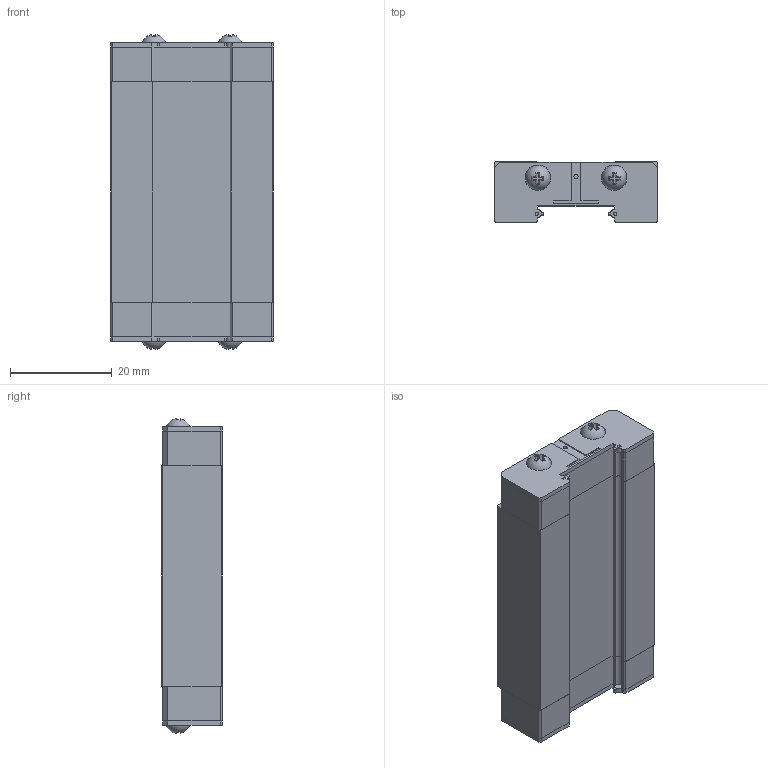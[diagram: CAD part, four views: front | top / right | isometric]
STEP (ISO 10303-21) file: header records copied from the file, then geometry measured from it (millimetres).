
FILE_DESCRIPTION(('FreeCAD Model'),'2;1');
FILE_NAME('Open CASCADE Shape Model','2021-05-04T14:38:52',('Author'),( ''),'Open CASCADE STEP processor 7.5','FreeCAD','Unknown');
FILE_SCHEMA(('AUTOMOTIVE_DESIGN { 1 0 10303 214 1 1 1 1 }'));
Length unit declared in the file: millimetre
Products named in the file (1): MGN15H v2
Bounding box: 32 x 12 x 61.91 mm (x, y, z)
Volume: 19313.6 mm3; surface area: 9287.5 mm2
Topology: 9 solids, 9 shells, 232 faces, 1874 edges, 5348 vertices
Faces by surface type: plane 194, cylinder 30, sphere 4, cone 4
Full cylindrical faces by diameter (mm): 0.8 x4, 2.5 x4, 5 x4
Entity records: 33954 total; most frequent: CARTESIAN_POINT 10603, DIRECTION 3818, LINE 2574, VECTOR 2574, GEOMETRIC_CURVE_SET 1249, ORIENTED_EDGE 1244, PCURVE 1244, DEFINITIONAL_REPRESENTATION 1244
